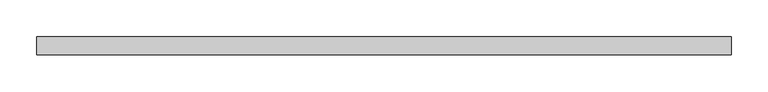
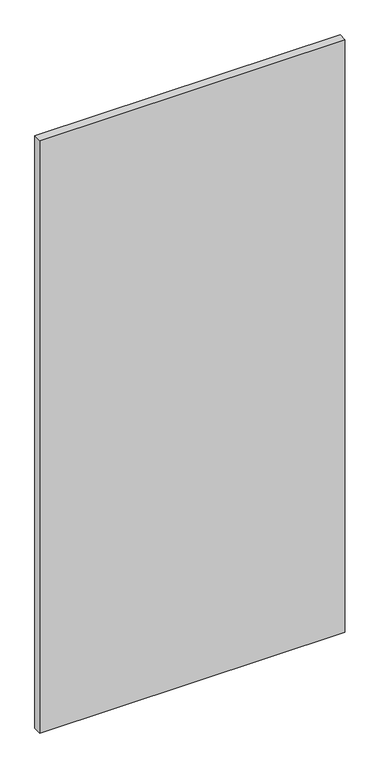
"""IFC4 building model written with IfcOpenShell, lengths in millimetres: plate geometry, Системная панель : С остеклением."""

from ifc_helpers import new_model, si_unit, origin, origin_with_axes, place, context, project, spatial, polyline, outline, extrude, source, transform, mapped, element, save


def plate_b9387e44(model_context):
    return source(origin(), model_context, "Body", "SweptSolid", [
        extrude(outline(polyline([(475.0, -49.5), (-475.0, -49.5), (-475.0, -24.5), (475.0, -24.5), (475.0, -49.5)])), origin_with_axes(), (0.0, 0.0, 1.0), 1950.0),
    ])


if __name__ == "__main__":
    model = new_model("IFC4")
    model_context = context("Model", 3, world=origin())
    ifc_project = project(units=[si_unit("LENGTHUNIT", "METRE", prefix="MILLI")], contexts=[model_context])
    site = spatial("IfcSite", under=ifc_project)
    building = spatial("IfcBuilding", under=site)
    placement = place(None, origin())
    plate_shape = plate_b9387e44(model_context)
    element("IfcPlate", 1, ObjectType="Системная панель : С остеклением", at=placement, inside=building, context=model_context, shape_type="MappedRepresentation", body=[
        mapped(plate_shape, transform((0.0, 0.0, 0.0), x_axis=(1.0, 0.0, 0.0), y_axis=(0.0, 1.0, 0.0), z_axis=(0.0, 0.0, 1.0))),
    ])
    save(model, "model.ifc")
